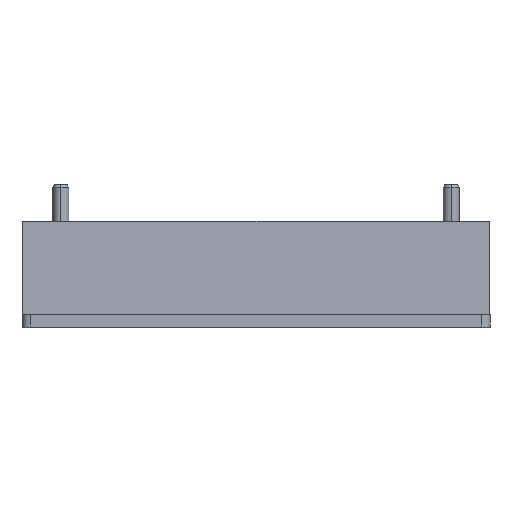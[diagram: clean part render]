
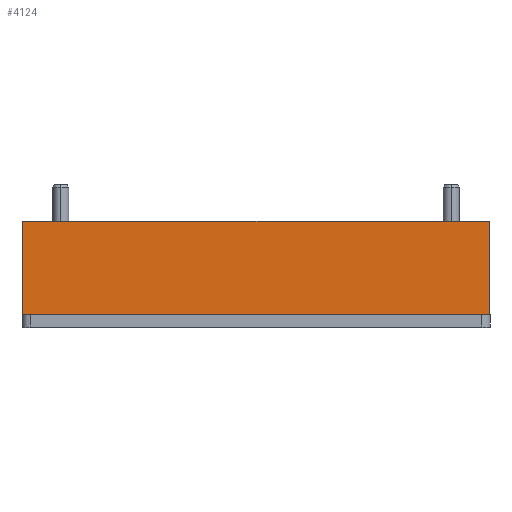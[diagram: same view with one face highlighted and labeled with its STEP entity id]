
A CAD part, top view. The second image highlights one B-rep face of the part: STEP entity #4124.
In plain terms, the highlighted planar face has unit normal (0, 0.009, 1) as drawn and (0, -0.009, -1) by its records, which use the part's own axes.
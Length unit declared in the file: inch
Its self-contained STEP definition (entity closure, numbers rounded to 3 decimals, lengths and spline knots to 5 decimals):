
#329 = VECTOR ( 'NONE', #10683, 39.37008 ) ;
#351 = EDGE_CURVE ( 'NONE', #8734, #5355, #11666, .T. ) ;
#1549 = EDGE_CURVE ( 'NONE', #8734, #2900, #26740, .T. ) ;
#2756 = VERTEX_POINT ( 'NONE', #19158 ) ;
#2900 = VERTEX_POINT ( 'NONE', #14572 ) ;
#4124 = ADVANCED_FACE ( 'NONE', ( #23830 ), #19711, .T. ) ;
#4535 = DIRECTION ( 'NONE',  ( -0.009, -1., 0.009 ) ) ;
#5355 = VERTEX_POINT ( 'NONE', #13388 ) ;
#7111 = LINE ( 'NONE', #8142, #329 ) ;
#7292 = LINE ( 'NONE', #11165, #26794 ) ;
#8142 = CARTESIAN_POINT ( 'NONE',  ( -1.13976, -0.45669, -1.1968 ) ) ;
#8734 = VERTEX_POINT ( 'NONE', #31407 ) ;
#9619 = DIRECTION ( 'NONE',  ( 0., 1., -0.009 ) ) ;
#10683 = DIRECTION ( 'NONE',  ( -1., 0., 0. ) ) ;
#10849 = EDGE_LOOP ( 'NONE', ( #21164, #15188, #17550, #26470 ) ) ;
#11165 = CARTESIAN_POINT ( 'NONE',  ( -1.13578, -0.45669, -1.1968 ) ) ;
#11666 = LINE ( 'NONE', #13060, #17627 ) ;
#13060 = CARTESIAN_POINT ( 'NONE',  ( -1.13976, 0., -1.20079 ) ) ;
#13388 = CARTESIAN_POINT ( 'NONE',  ( -1.13976, 0., -1.20079 ) ) ;
#14572 = CARTESIAN_POINT ( 'NONE',  ( 1.13578, -0.45669, -1.1968 ) ) ;
#15188 = ORIENTED_EDGE ( 'NONE', *, *, #31282, .T. ) ;
#16026 = EDGE_CURVE ( 'NONE', #2900, #2756, #7111, .T. ) ;
#17550 = ORIENTED_EDGE ( 'NONE', *, *, #351, .F. ) ;
#17627 = VECTOR ( 'NONE', #17918, 39.37008 ) ;
#17918 = DIRECTION ( 'NONE',  ( -1., 0., 0. ) ) ;
#19158 = CARTESIAN_POINT ( 'NONE',  ( -1.13578, -0.45669, -1.1968 ) ) ;
#19711 = PLANE ( 'NONE',  #31391 ) ;
#20725 = VECTOR ( 'NONE', #4535, 39.37008 ) ;
#21164 = ORIENTED_EDGE ( 'NONE', *, *, #16026, .T. ) ;
#23830 = FACE_OUTER_BOUND ( 'NONE', #10849, .T. ) ;
#24861 = DIRECTION ( 'NONE',  ( 0., -0.009, -1. ) ) ;
#26437 = DIRECTION ( 'NONE',  ( -0.009, 1., -0.009 ) ) ;
#26470 = ORIENTED_EDGE ( 'NONE', *, *, #1549, .T. ) ;
#26740 = LINE ( 'NONE', #29814, #20725 ) ;
#26794 = VECTOR ( 'NONE', #26437, 39.37008 ) ;
#27205 = CARTESIAN_POINT ( 'NONE',  ( -1.13976, 0., -1.20079 ) ) ;
#29814 = CARTESIAN_POINT ( 'NONE',  ( 1.13976, 0., -1.20079 ) ) ;
#31282 = EDGE_CURVE ( 'NONE', #2756, #5355, #7292, .T. ) ;
#31391 = AXIS2_PLACEMENT_3D ( 'NONE', #27205, #24861, #9619 ) ;
#31407 = CARTESIAN_POINT ( 'NONE',  ( 1.13976, 0., -1.20079 ) ) ;
